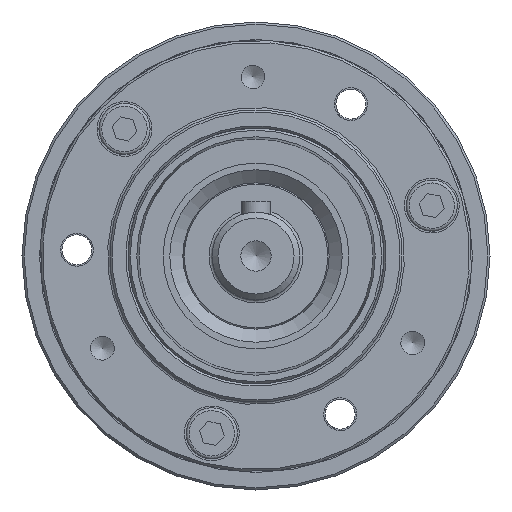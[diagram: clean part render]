
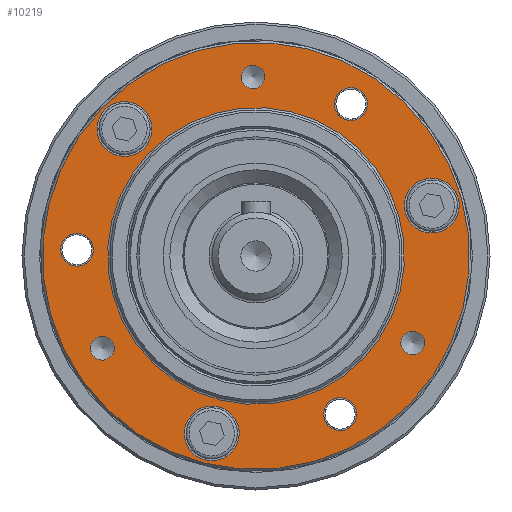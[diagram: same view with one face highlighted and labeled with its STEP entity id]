
A CAD part, left-side view. The second image highlights one B-rep face of the part: STEP entity #10219.
In plain terms, the highlighted planar face has unit normal (-1, 0, 0).
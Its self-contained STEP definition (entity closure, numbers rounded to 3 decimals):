
#2085=PLANE('',#11266);
#2611=FACE_BOUND('',#4049,.T.);
#2612=FACE_BOUND('',#4050,.T.);
#2613=FACE_BOUND('',#4051,.T.);
#2614=FACE_BOUND('',#4052,.T.);
#2615=FACE_BOUND('',#4053,.T.);
#2616=FACE_BOUND('',#4054,.T.);
#2617=FACE_BOUND('',#4055,.T.);
#2618=FACE_BOUND('',#4056,.T.);
#2619=FACE_BOUND('',#4057,.T.);
#2620=FACE_BOUND('',#4058,.T.);
#3146=FACE_OUTER_BOUND('',#4048,.T.);
#4048=EDGE_LOOP('',(#8902));
#4049=EDGE_LOOP('',(#8903));
#4050=EDGE_LOOP('',(#8904));
#4051=EDGE_LOOP('',(#8905));
#4052=EDGE_LOOP('',(#8906));
#4053=EDGE_LOOP('',(#8907));
#4054=EDGE_LOOP('',(#8908));
#4055=EDGE_LOOP('',(#8909));
#4056=EDGE_LOOP('',(#8910));
#4057=EDGE_LOOP('',(#8911));
#4058=EDGE_LOOP('',(#8912));
#4445=CIRCLE('',#10600,2.25);
#4446=CIRCLE('',#10602,2.25);
#4447=CIRCLE('',#10604,2.25);
#4776=CIRCLE('',#11265,20.3);
#4777=CIRCLE('',#11267,29.2);
#4778=CIRCLE('',#11268,1.621);
#4779=CIRCLE('',#11269,1.621);
#4780=CIRCLE('',#11270,1.621);
#4781=CIRCLE('',#11271,3.75);
#4782=CIRCLE('',#11272,3.75);
#4783=CIRCLE('',#11273,3.75);
#5086=VERTEX_POINT('',#15742);
#5087=VERTEX_POINT('',#15745);
#5088=VERTEX_POINT('',#15748);
#5596=VERTEX_POINT('',#18105);
#5597=VERTEX_POINT('',#18108);
#5598=VERTEX_POINT('',#18110);
#5599=VERTEX_POINT('',#18112);
#5600=VERTEX_POINT('',#18114);
#5601=VERTEX_POINT('',#18116);
#5602=VERTEX_POINT('',#18118);
#5603=VERTEX_POINT('',#18120);
#6021=EDGE_CURVE('',#5086,#5086,#4445,.T.);
#6022=EDGE_CURVE('',#5087,#5087,#4446,.T.);
#6023=EDGE_CURVE('',#5088,#5088,#4447,.T.);
#6736=EDGE_CURVE('',#5596,#5596,#4776,.T.);
#6737=EDGE_CURVE('',#5597,#5597,#4777,.T.);
#6738=EDGE_CURVE('',#5598,#5598,#4778,.T.);
#6739=EDGE_CURVE('',#5599,#5599,#4779,.T.);
#6740=EDGE_CURVE('',#5600,#5600,#4780,.T.);
#6741=EDGE_CURVE('',#5601,#5601,#4781,.T.);
#6742=EDGE_CURVE('',#5602,#5602,#4782,.T.);
#6743=EDGE_CURVE('',#5603,#5603,#4783,.T.);
#8902=ORIENTED_EDGE('',*,*,#6737,.F.);
#8903=ORIENTED_EDGE('',*,*,#6021,.T.);
#8904=ORIENTED_EDGE('',*,*,#6022,.T.);
#8905=ORIENTED_EDGE('',*,*,#6023,.T.);
#8906=ORIENTED_EDGE('',*,*,#6738,.T.);
#8907=ORIENTED_EDGE('',*,*,#6739,.T.);
#8908=ORIENTED_EDGE('',*,*,#6740,.T.);
#8909=ORIENTED_EDGE('',*,*,#6741,.T.);
#8910=ORIENTED_EDGE('',*,*,#6742,.T.);
#8911=ORIENTED_EDGE('',*,*,#6743,.T.);
#8912=ORIENTED_EDGE('',*,*,#6736,.F.);
#10219=ADVANCED_FACE('',(#3146,#2611,#2612,#2613,#2614,#2615,#2616,#2617,
#2618,#2619,#2620),#2085,.T.);
#10600=AXIS2_PLACEMENT_3D('',#15743,#12023,#12024);
#10602=AXIS2_PLACEMENT_3D('',#15746,#12027,#12028);
#10604=AXIS2_PLACEMENT_3D('',#15749,#12031,#12032);
#11265=AXIS2_PLACEMENT_3D('',#18106,#13641,#13642);
#11266=AXIS2_PLACEMENT_3D('',#18107,#13643,#13644);
#11267=AXIS2_PLACEMENT_3D('',#18109,#13645,#13646);
#11268=AXIS2_PLACEMENT_3D('',#18111,#13647,#13648);
#11269=AXIS2_PLACEMENT_3D('',#18113,#13649,#13650);
#11270=AXIS2_PLACEMENT_3D('',#18115,#13651,#13652);
#11271=AXIS2_PLACEMENT_3D('',#18117,#13653,#13654);
#11272=AXIS2_PLACEMENT_3D('',#18119,#13655,#13656);
#11273=AXIS2_PLACEMENT_3D('',#18121,#13657,#13658);
#12023=DIRECTION('center_axis',(1.,0.,0.));
#12024=DIRECTION('ref_axis',(0.,0.276,0.961));
#12027=DIRECTION('center_axis',(1.,0.,0.));
#12028=DIRECTION('ref_axis',(0.,0.276,0.961));
#12031=DIRECTION('center_axis',(1.,0.,0.));
#12032=DIRECTION('ref_axis',(0.,0.276,0.961));
#13641=DIRECTION('center_axis',(-1.,0.,0.));
#13642=DIRECTION('ref_axis',(0.,-0.961,0.276));
#13643=DIRECTION('center_axis',(-1.,0.,0.));
#13644=DIRECTION('ref_axis',(0.,0.276,0.961));
#13645=DIRECTION('center_axis',(1.,0.,0.));
#13646=DIRECTION('ref_axis',(0.,-0.961,0.276));
#13647=DIRECTION('center_axis',(1.,0.,0.));
#13648=DIRECTION('ref_axis',(0.,0.276,0.961));
#13649=DIRECTION('center_axis',(1.,0.,0.));
#13650=DIRECTION('ref_axis',(0.,0.276,0.961));
#13651=DIRECTION('center_axis',(1.,0.,0.));
#13652=DIRECTION('ref_axis',(0.,0.276,0.961));
#13653=DIRECTION('center_axis',(1.,0.,0.));
#13654=DIRECTION('ref_axis',(0.,0.276,0.961));
#13655=DIRECTION('center_axis',(1.,0.,0.));
#13656=DIRECTION('ref_axis',(0.,0.276,0.961));
#13657=DIRECTION('center_axis',(1.,0.,0.));
#13658=DIRECTION('ref_axis',(0.,0.276,0.961));
#15742=CARTESIAN_POINT('',(3.,-12.122,-23.795));
#15743=CARTESIAN_POINT('Origin',(3.,-11.502,-21.632));
#15745=CARTESIAN_POINT('',(3.,-13.603,18.614));
#15746=CARTESIAN_POINT('Origin',(3.,-12.983,20.777));
#15748=CARTESIAN_POINT('',(3.,23.865,-1.308));
#15749=CARTESIAN_POINT('Origin',(3.,24.485,0.855));
#18105=CARTESIAN_POINT('',(3.,19.514,-5.595));
#18106=CARTESIAN_POINT('Origin',(3.,0.,
0.));
#18107=CARTESIAN_POINT('Origin',(3.,23.791,-6.822));
#18108=CARTESIAN_POINT('',(3.,28.069,-8.049));
#18109=CARTESIAN_POINT('Origin',(3.,0.,
0.));
#18110=CARTESIAN_POINT('',(3.,-0.019,22.938));
#18111=CARTESIAN_POINT('Origin',(3.,0.428,24.496));
#18112=CARTESIAN_POINT('',(3.,20.554,-14.177));
#18113=CARTESIAN_POINT('Origin',(3.,21.001,-12.618));
#18114=CARTESIAN_POINT('',(3.,-21.875,-13.436));
#18115=CARTESIAN_POINT('Origin',(3.,-21.428,-11.878));
#18116=CARTESIAN_POINT('',(3.,16.95,13.762));
#18117=CARTESIAN_POINT('Origin',(3.,17.983,17.366));
#18118=CARTESIAN_POINT('',(3.,5.014,-27.862));
#18119=CARTESIAN_POINT('Origin',(3.,6.048,-24.257));
#18120=CARTESIAN_POINT('',(3.,-25.065,3.286));
#18121=CARTESIAN_POINT('Origin',(3.,-24.032,6.891));
